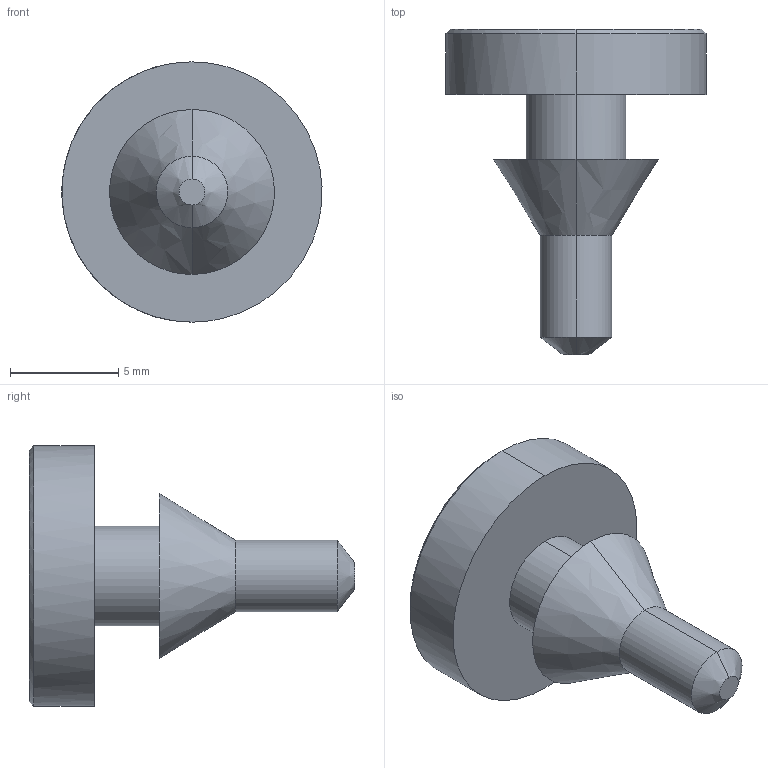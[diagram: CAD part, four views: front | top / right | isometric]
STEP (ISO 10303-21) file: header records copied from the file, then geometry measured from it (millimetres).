
FILE_DESCRIPTION(/* description */ (''),/* implementation_level */ '2;1');
FILE_NAME(/* name */ 'PP-3(3mm)-3D',/* time_stamp */ '2023-05-05T06:30:19+08:00',/* author */ (''),/* organization */ (''),/* preprocessor_version */ 'ST-DEVELOPER v16.5',/* originating_system */ 'Rhino 7.28',/* authorisation */ '');
FILE_SCHEMA (('CONFIG_CONTROL_DESIGN'));
Length unit declared in the file: millimetre
Products named in the file (1): Document
Bounding box: 11.99 x 15 x 12 mm (x, y, z)
Volume: 518.3 mm3; surface area: 519.8 mm2
Topology: 1 solids, 1 shells, 16 faces, 30 edges, 18 vertices
Faces by surface type: bspline 6, cylinder 6, plane 4
Entity records: 546 total; most frequent: CARTESIAN_POINT 252, ORIENTED_EDGE 60, EDGE_CURVE 30, EDGE_LOOP 18, VERTEX_POINT 18, ADVANCED_FACE 16, FACE_OUTER_BOUND 16, DIRECTION 14
